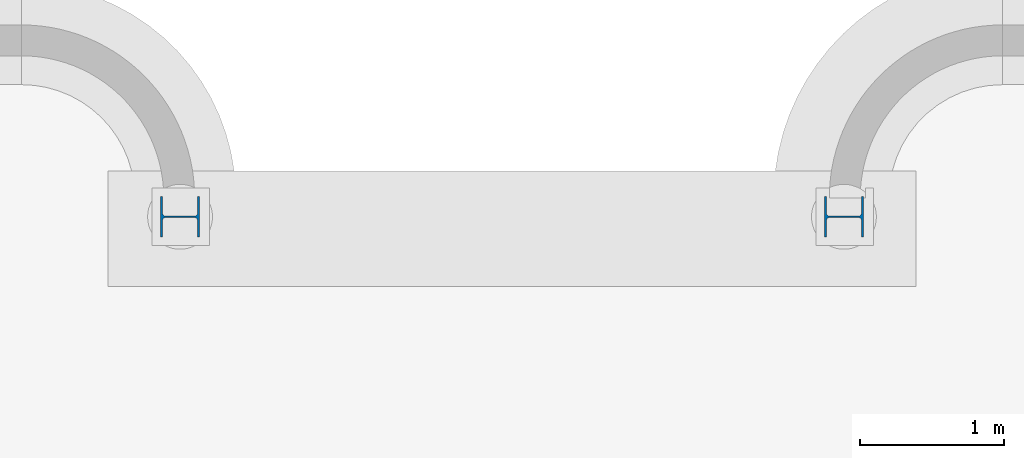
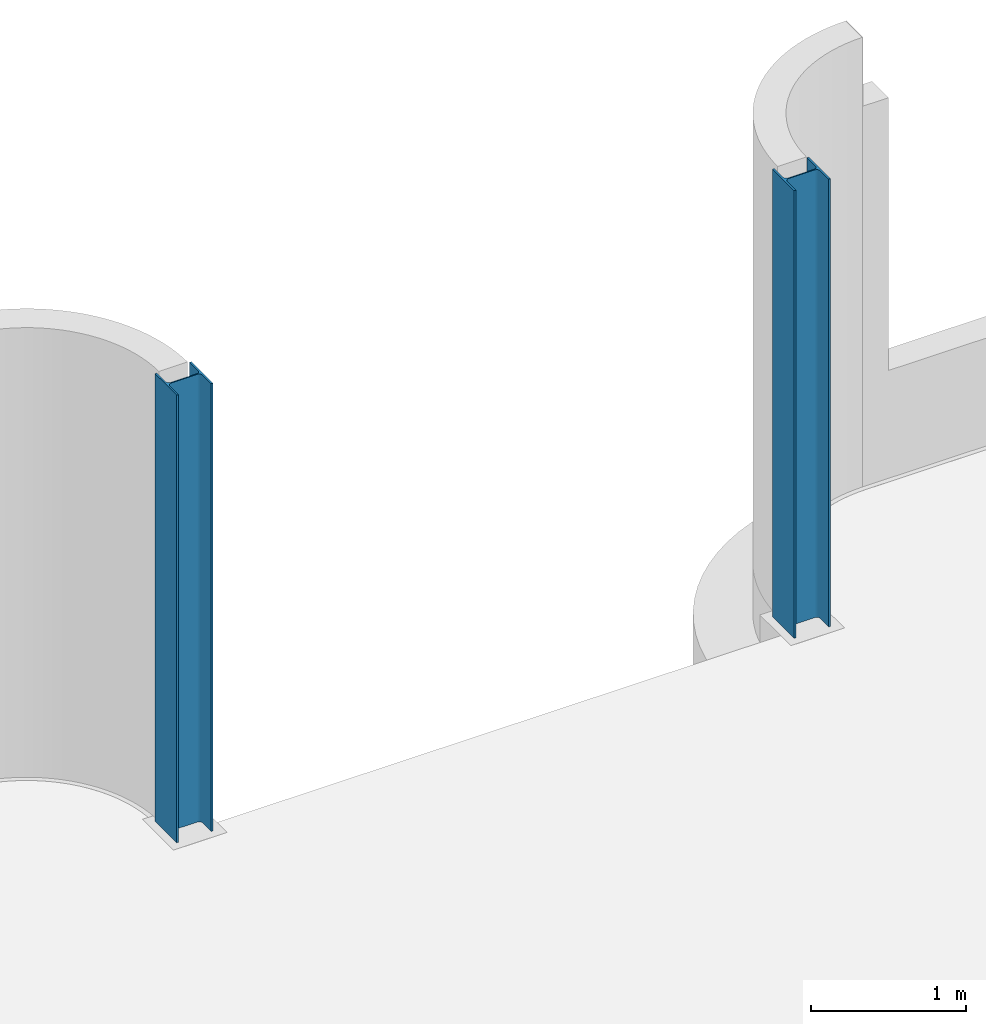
# One storey, part 14 of 26: 2 columns.
"""IFC2X3 building model written with IfcOpenShell, lengths in millimetres."""

from ifc_helpers import new_model, entity, si_unit, converted_unit, derived_unit, direction, frame, frame_2d, origin, place, context, subcontext, project, spatial, i_section, extrude, source, transform, mapped, material, type_object, type_shapes, element, save


model = new_model("IFC2X3")

# Units and contexts
model_context = context("Model", 3, precision=0.01, world=origin(), true_north=direction((6.123031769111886e-17, 1.0)))
body_context = subcontext(model_context, "Body", "Model", "MODEL_VIEW")
ifc_project = project(units=[si_unit("LENGTHUNIT", "METRE", prefix="MILLI"), si_unit("AREAUNIT", "SQUARE_METRE"), si_unit("VOLUMEUNIT", "CUBIC_METRE"), derived_unit("MASSDENSITYUNIT", [(si_unit("MASSUNIT", "GRAM", prefix="KILO"), 1), (si_unit("LENGTHUNIT", "METRE"), -3)]), si_unit("MASSUNIT", "GRAM", prefix="KILO"), converted_unit("PLANEANGLEUNIT", "DEGREE", entity("IfcPlaneAngleMeasure", 0.017453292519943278), si_unit("PLANEANGLEUNIT", "RADIAN"), dimensions=[0, 0, 0, 0, 0, 0, 0])], contexts=[model_context])

# Site, building, storey
site_placement = place(None, origin())
site = spatial("IfcSite", under=ifc_project, at=site_placement, Name="Default", CompositionType="ELEMENT")
building_placement = place(site_placement, origin())
building = spatial("IfcBuilding", under=site, at=building_placement, Name="AT constructie", CompositionType="ELEMENT")
storey_placement = place(building_placement, origin())
storey = spatial("IfcBuildingStorey", under=building, at=storey_placement, Name="00 begane grond", CompositionType="ELEMENT", Elevation=-1.0828671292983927e-12)

# Columns
ifc_material = material(Name="h2_staal_S355")
column_type_1 = type_object("IfcColumnType", Name="kolom_gen_HEA280", PredefinedType="COLUMN", material=ifc_material)
shared_shape_1 = source(origin(), body_context, "Body", "SweptSolid", [
    extrude(i_section(OverallWidth=280.0000000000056, OverallDepth=270.0000000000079, WebThickness=7.999999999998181, FlangeThickness=12.999999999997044, FilletRadius=24.0, at=frame_2d((8.65441052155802e-12, 0.0), x_axis=(1.0, 0.0))), frame((78348.37463291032, 41541.043508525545, -50.0), z_axis=(0.0, 0.0, 1.0), x_axis=(0.0, 1.0, 0.0)), (0.0, 0.0, 1.0), 3529.0000000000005),
])
type_shapes(column_type_1, [shared_shape_1])
column_1_placement = place(storey_placement, origin())
element("IfcColumn", 1, at=column_1_placement, inside=storey, type_object=column_type_1, material=ifc_material, Name="NLRS_28_SC_TLB_kolom HEA_gen_AT:kolom_gen_HEA280", ObjectType="NLRS_28_SC_TLB_kolom HEA_gen_AT:kolom_gen_HEA280", context=body_context, shape_type="MappedRepresentation", body=[
    mapped(shared_shape_1, transform((0.0, 0.0, 0.0), scale=1.0)),
])
column_type_2 = type_object("IfcColumnType", Name="kolom_gen_HEA280", PredefinedType="COLUMN", material=ifc_material)
shared_shape_2 = source(origin(), body_context, "Body", "SweptSolid", [
    extrude(i_section(OverallWidth=280.0000000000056, OverallDepth=269.99999999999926, WebThickness=7.999999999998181, FlangeThickness=13.000000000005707, FilletRadius=24.0, at=frame_2d((0.0, 4.320099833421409e-12), x_axis=(1.0, 0.0))), frame((73745.37463111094, 41541.04350852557, -50.0), z_axis=(0.0, 0.0, 1.0), x_axis=(0.0, 1.0, 0.0)), (0.0, 0.0, 1.0), 3529.0000000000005),
])
type_shapes(column_type_2, [shared_shape_2])
column_2_placement = place(storey_placement, origin())
element("IfcColumn", 2, at=column_2_placement, inside=storey, type_object=column_type_2, material=ifc_material, Name="NLRS_28_SC_TLB_kolom HEA_gen_AT:kolom_gen_HEA280", ObjectType="NLRS_28_SC_TLB_kolom HEA_gen_AT:kolom_gen_HEA280", context=body_context, shape_type="MappedRepresentation", body=[
    mapped(shared_shape_2, transform((0.0, 0.0, 0.0), scale=1.0)),
])

save(model, "model.ifc")
